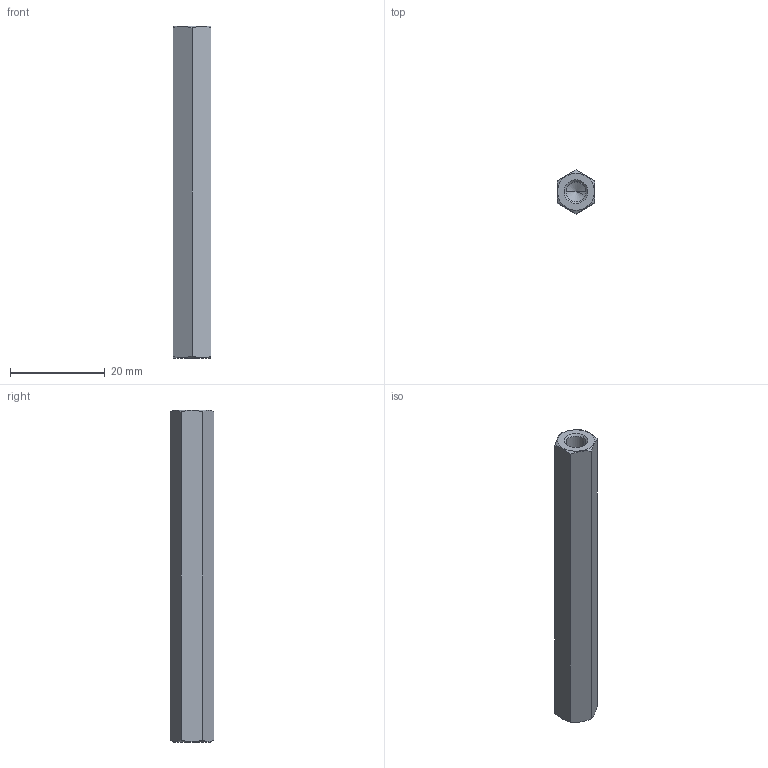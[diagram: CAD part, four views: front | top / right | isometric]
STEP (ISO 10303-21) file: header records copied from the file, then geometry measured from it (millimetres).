
FILE_DESCRIPTION (( 'STEP AP214' ), '1' );
FILE_NAME ('6220-ST-M5-70-A.step', '2019-02-25T07:36:08', ( 'user' ), ( '' ), 'SwSTEP 2.0', 'SolidWorks 2017', '' );
FILE_SCHEMA (( 'AUTOMOTIVE_DESIGN' ));
Length unit declared in the file: millimetre
Products named in the file (1): 6220-ST-M5-70-A
Bounding box: 8 x 9.24 x 70 mm (x, y, z)
Volume: 3470.6 mm3; surface area: 2416.7 mm2
Topology: 1 solids, 1 shells, 24 faces, 58 edges, 34 vertices
Faces by surface type: cone 12, plane 8, cylinder 4
Entity records: 808 total; most frequent: CARTESIAN_POINT 209, ORIENTED_EDGE 108, DIRECTION 104, EDGE_CURVE 54, AXIS2_PLACEMENT_3D 41, VERTEX_POINT 34, EDGE_LOOP 26, ADVANCED_FACE 24
